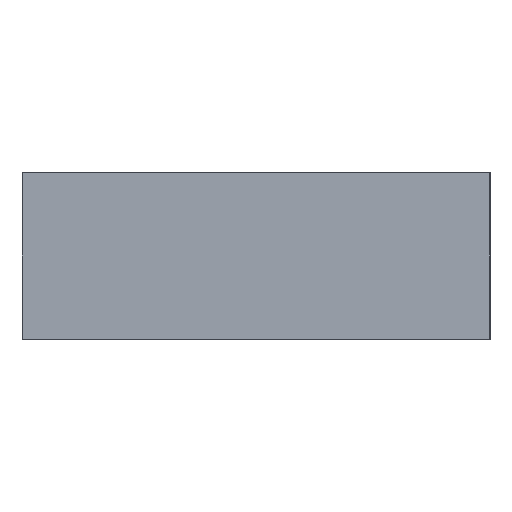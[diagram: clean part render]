
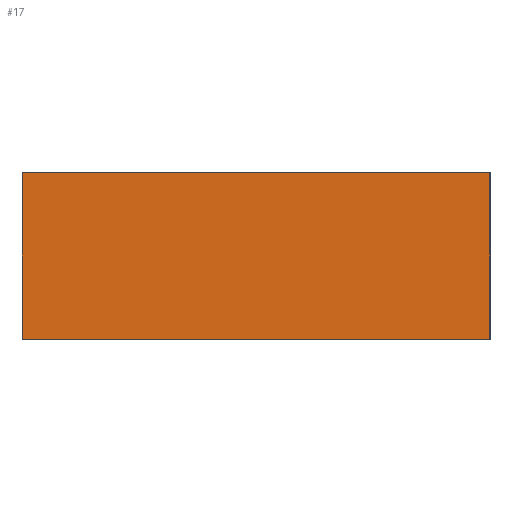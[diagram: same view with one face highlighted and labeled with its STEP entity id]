
A CAD part, left-side view. The second image highlights one B-rep face of the part: STEP entity #17.
In plain terms, the highlighted planar face has unit normal (-1, 0, 0).
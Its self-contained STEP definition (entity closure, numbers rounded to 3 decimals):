
#17 = ADVANCED_FACE('',(#18),#32,.F.);
#18 = FACE_BOUND('',#19,.F.);
#19 = EDGE_LOOP('',(#20,#55,#83,#111));
#20 = ORIENTED_EDGE('',*,*,#21,.F.);
#21 = EDGE_CURVE('',#22,#24,#26,.T.);
#22 = VERTEX_POINT('',#23);
#23 = CARTESIAN_POINT('',(-77.,-157.1,29.9));
#24 = VERTEX_POINT('',#25);
#25 = CARTESIAN_POINT('',(-77.,-72.9,29.9));
#26 = SURFACE_CURVE('',#27,(#31,#43),.PCURVE_S1.);
#27 = LINE('',#28,#29);
#28 = CARTESIAN_POINT('',(-77.,-157.1,29.9));
#29 = VECTOR('',#30,1.);
#30 = DIRECTION('',(0.,1.,0.));
#31 = PCURVE('',#32,#37);
#32 = PLANE('',#33);
#33 = AXIS2_PLACEMENT_3D('',#34,#35,#36);
#34 = CARTESIAN_POINT('',(-77.,-157.1,0.));
#35 = DIRECTION('',(1.,0.,0.));
#36 = DIRECTION('',(0.,0.,1.));
#37 = DEFINITIONAL_REPRESENTATION('',(#38),#42);
#38 = LINE('',#39,#40);
#39 = CARTESIAN_POINT('',(29.9,0.));
#40 = VECTOR('',#41,1.);
#41 = DIRECTION('',(0.,-1.));
#42 = ( GEOMETRIC_REPRESENTATION_CONTEXT(2) 
PARAMETRIC_REPRESENTATION_CONTEXT() REPRESENTATION_CONTEXT('2D SPACE',''
  ) );
#43 = PCURVE('',#44,#49);
#44 = PLANE('',#45);
#45 = AXIS2_PLACEMENT_3D('',#46,#47,#48);
#46 = CARTESIAN_POINT('',(-77.,-157.1,29.9));
#47 = DIRECTION('',(0.,0.,1.));
#48 = DIRECTION('',(1.,0.,0.));
#49 = DEFINITIONAL_REPRESENTATION('',(#50),#54);
#50 = LINE('',#51,#52);
#51 = CARTESIAN_POINT('',(0.,0.));
#52 = VECTOR('',#53,1.);
#53 = DIRECTION('',(0.,1.));
#54 = ( GEOMETRIC_REPRESENTATION_CONTEXT(2) 
PARAMETRIC_REPRESENTATION_CONTEXT() REPRESENTATION_CONTEXT('2D SPACE',''
  ) );
#55 = ORIENTED_EDGE('',*,*,#56,.F.);
#56 = EDGE_CURVE('',#57,#22,#59,.T.);
#57 = VERTEX_POINT('',#58);
#58 = CARTESIAN_POINT('',(-77.,-157.1,0.));
#59 = SURFACE_CURVE('',#60,(#64,#71),.PCURVE_S1.);
#60 = LINE('',#61,#62);
#61 = CARTESIAN_POINT('',(-77.,-157.1,0.));
#62 = VECTOR('',#63,1.);
#63 = DIRECTION('',(0.,0.,1.));
#64 = PCURVE('',#32,#65);
#65 = DEFINITIONAL_REPRESENTATION('',(#66),#70);
#66 = LINE('',#67,#68);
#67 = CARTESIAN_POINT('',(0.,0.));
#68 = VECTOR('',#69,1.);
#69 = DIRECTION('',(1.,0.));
#70 = ( GEOMETRIC_REPRESENTATION_CONTEXT(2) 
PARAMETRIC_REPRESENTATION_CONTEXT() REPRESENTATION_CONTEXT('2D SPACE',''
  ) );
#71 = PCURVE('',#72,#77);
#72 = PLANE('',#73);
#73 = AXIS2_PLACEMENT_3D('',#74,#75,#76);
#74 = CARTESIAN_POINT('',(-77.,-157.1,0.));
#75 = DIRECTION('',(0.,1.,0.));
#76 = DIRECTION('',(0.,0.,1.));
#77 = DEFINITIONAL_REPRESENTATION('',(#78),#82);
#78 = LINE('',#79,#80);
#79 = CARTESIAN_POINT('',(0.,0.));
#80 = VECTOR('',#81,1.);
#81 = DIRECTION('',(1.,0.));
#82 = ( GEOMETRIC_REPRESENTATION_CONTEXT(2) 
PARAMETRIC_REPRESENTATION_CONTEXT() REPRESENTATION_CONTEXT('2D SPACE',''
  ) );
#83 = ORIENTED_EDGE('',*,*,#84,.T.);
#84 = EDGE_CURVE('',#57,#85,#87,.T.);
#85 = VERTEX_POINT('',#86);
#86 = CARTESIAN_POINT('',(-77.,-72.9,0.));
#87 = SURFACE_CURVE('',#88,(#92,#99),.PCURVE_S1.);
#88 = LINE('',#89,#90);
#89 = CARTESIAN_POINT('',(-77.,-157.1,0.));
#90 = VECTOR('',#91,1.);
#91 = DIRECTION('',(0.,1.,0.));
#92 = PCURVE('',#32,#93);
#93 = DEFINITIONAL_REPRESENTATION('',(#94),#98);
#94 = LINE('',#95,#96);
#95 = CARTESIAN_POINT('',(0.,0.));
#96 = VECTOR('',#97,1.);
#97 = DIRECTION('',(0.,-1.));
#98 = ( GEOMETRIC_REPRESENTATION_CONTEXT(2) 
PARAMETRIC_REPRESENTATION_CONTEXT() REPRESENTATION_CONTEXT('2D SPACE',''
  ) );
#99 = PCURVE('',#100,#105);
#100 = PLANE('',#101);
#101 = AXIS2_PLACEMENT_3D('',#102,#103,#104);
#102 = CARTESIAN_POINT('',(-77.,-157.1,0.));
#103 = DIRECTION('',(0.,0.,1.));
#104 = DIRECTION('',(1.,0.,0.));
#105 = DEFINITIONAL_REPRESENTATION('',(#106),#110);
#106 = LINE('',#107,#108);
#107 = CARTESIAN_POINT('',(0.,0.));
#108 = VECTOR('',#109,1.);
#109 = DIRECTION('',(0.,1.));
#110 = ( GEOMETRIC_REPRESENTATION_CONTEXT(2) 
PARAMETRIC_REPRESENTATION_CONTEXT() REPRESENTATION_CONTEXT('2D SPACE',''
  ) );
#111 = ORIENTED_EDGE('',*,*,#112,.T.);
#112 = EDGE_CURVE('',#85,#24,#113,.T.);
#113 = SURFACE_CURVE('',#114,(#118,#125),.PCURVE_S1.);
#114 = LINE('',#115,#116);
#115 = CARTESIAN_POINT('',(-77.,-72.9,0.));
#116 = VECTOR('',#117,1.);
#117 = DIRECTION('',(0.,0.,1.));
#118 = PCURVE('',#32,#119);
#119 = DEFINITIONAL_REPRESENTATION('',(#120),#124);
#120 = LINE('',#121,#122);
#121 = CARTESIAN_POINT('',(0.,-84.2));
#122 = VECTOR('',#123,1.);
#123 = DIRECTION('',(1.,0.));
#124 = ( GEOMETRIC_REPRESENTATION_CONTEXT(2) 
PARAMETRIC_REPRESENTATION_CONTEXT() REPRESENTATION_CONTEXT('2D SPACE',''
  ) );
#125 = PCURVE('',#126,#131);
#126 = PLANE('',#127);
#127 = AXIS2_PLACEMENT_3D('',#128,#129,#130);
#128 = CARTESIAN_POINT('',(-77.,-72.9,0.));
#129 = DIRECTION('',(0.,1.,0.));
#130 = DIRECTION('',(0.,0.,1.));
#131 = DEFINITIONAL_REPRESENTATION('',(#132),#136);
#132 = LINE('',#133,#134);
#133 = CARTESIAN_POINT('',(0.,0.));
#134 = VECTOR('',#135,1.);
#135 = DIRECTION('',(1.,0.));
#136 = ( GEOMETRIC_REPRESENTATION_CONTEXT(2) 
PARAMETRIC_REPRESENTATION_CONTEXT() REPRESENTATION_CONTEXT('2D SPACE',''
  ) );
